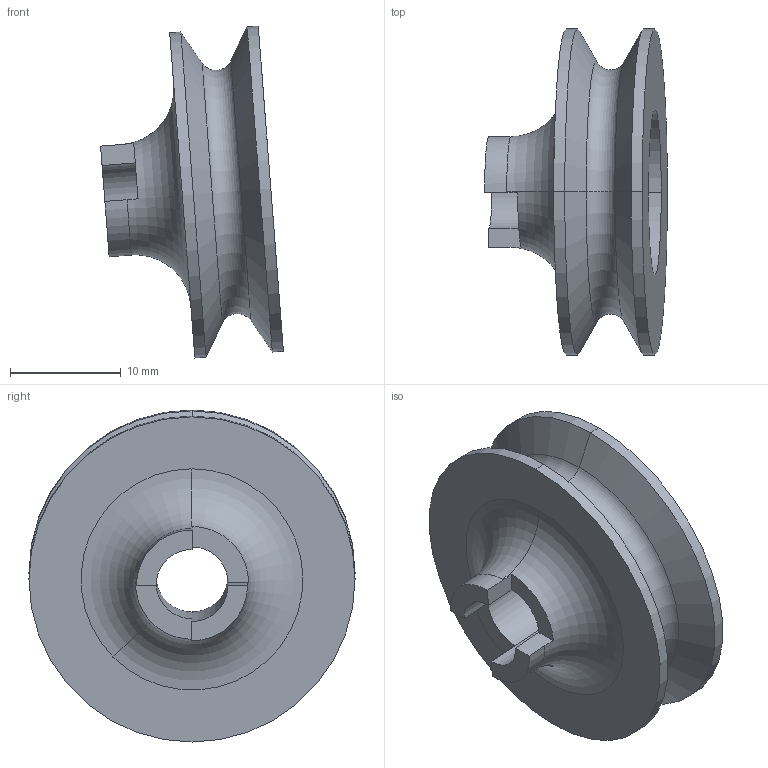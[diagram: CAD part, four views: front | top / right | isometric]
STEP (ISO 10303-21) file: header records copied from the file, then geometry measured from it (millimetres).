
FILE_DESCRIPTION((''),'2;1');
FILE_NAME('0000237223_PRT','2025-11-12T18:34:13',('Wyndorps'),(''),'CREO PARAMETRIC BY PTC INC, 2025010','CREO PARAMETRIC BY PTC INC, 2025010','');
FILE_SCHEMA(('CONFIG_CONTROL_DESIGN'));
Length unit declared in the file: millimetre
Products named in the file (1): 0000237223_PRT
Bounding box: 16.48 x 29.39 x 29.92 mm (x, y, z)
Volume: 3877.2 mm3; surface area: 2785.1 mm2
Topology: 1 solids, 1 shells, 29 faces, 70 edges, 44 vertices
Faces by surface type: plane 11, cylinder 10, cone 4, torus 4
Entity records: 904 total; most frequent: DIRECTION 170, CARTESIAN_POINT 143, ORIENTED_EDGE 140, AXIS2_PLACEMENT_3D 71, EDGE_CURVE 70, VERTEX_POINT 44, CIRCLE 42, EDGE_LOOP 32
